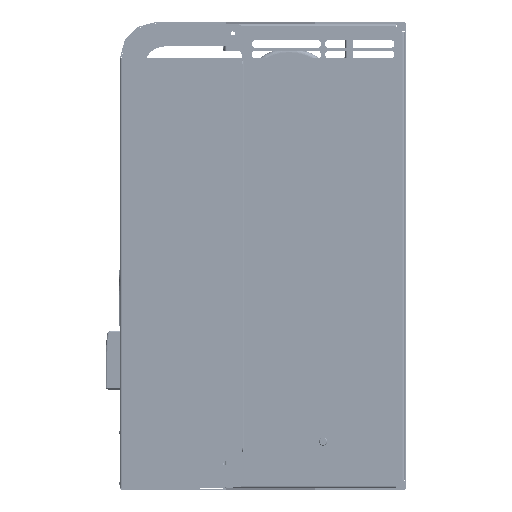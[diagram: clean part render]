
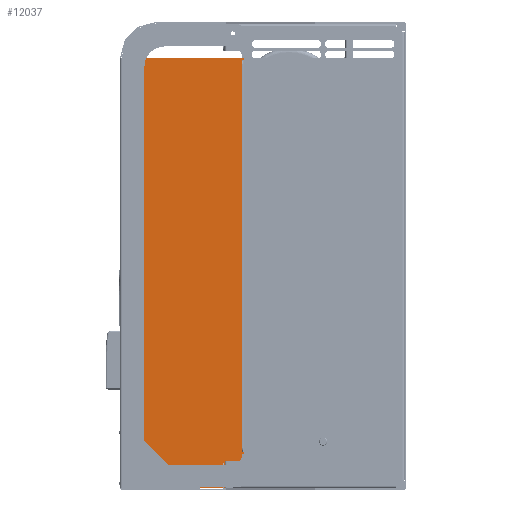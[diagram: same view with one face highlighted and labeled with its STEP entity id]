
A CAD part, left-side view. The second image highlights one B-rep face of the part: STEP entity #12037.
In plain terms, the highlighted planar face has unit normal (-1, 0, 0).
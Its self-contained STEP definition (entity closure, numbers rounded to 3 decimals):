
#12037 = ADVANCED_FACE ( 'NONE', ( #145536 ), #235431, .F. ) ;
#16081 = EDGE_CURVE ( 'NONE', #337042, #223485, #110135, .T. ) ;
#16265 = CARTESIAN_POINT ( 'NONE',  ( -323., 199.2, -240. ) ) ;
#16679 = CARTESIAN_POINT ( 'NONE',  ( -323., 199., -240. ) ) ;
#17357 = CARTESIAN_POINT ( 'NONE',  ( -323., 199., -243. ) ) ;
#17366 = CARTESIAN_POINT ( 'NONE',  ( -323., 222.883, -251.5 ) ) ;
#17409 = CARTESIAN_POINT ( 'NONE',  ( -323., 220.2, -251.5 ) ) ;
#17829 = CARTESIAN_POINT ( 'NONE',  ( -323., 202., -246.5 ) ) ;
#18579 = CARTESIAN_POINT ( 'NONE',  ( -323., 199., 240. ) ) ;
#18945 = CARTESIAN_POINT ( 'NONE',  ( -323., 202., -243. ) ) ;
#19064 = CARTESIAN_POINT ( 'NONE',  ( -323., 222.883, -284.1 ) ) ;
#19332 = CARTESIAN_POINT ( 'NONE',  ( -323., 207., -251.5 ) ) ;
#19369 = CARTESIAN_POINT ( 'NONE',  ( -323., 199.2, 240. ) ) ;
#19860 = CARTESIAN_POINT ( 'NONE',  ( -323., 199., 242.655 ) ) ;
#20257 = CARTESIAN_POINT ( 'NONE',  ( -323., 225., -284.1 ) ) ;
#20328 = CARTESIAN_POINT ( 'NONE',  ( -323., 223., -253.428 ) ) ;
#20483 = CARTESIAN_POINT ( 'NONE',  ( -323., 225., -253.428 ) ) ;
#20915 = CARTESIAN_POINT ( 'NONE',  ( -323., 223., -284.1 ) ) ;
#61910 = EDGE_CURVE ( 'NONE', #329546, #335476, #82780, .T. ) ;
#61981 = EDGE_CURVE ( 'NONE', #335476, #335127, #82689, .T. ) ;
#62002 = EDGE_CURVE ( 'NONE', #335127, #334226, #82692, .T. ) ;
#62021 = EDGE_CURVE ( 'NONE', #332993, #330620, #82632, .T. ) ;
#62027 = EDGE_CURVE ( 'NONE', #334226, #332993, #82619, .T. ) ;
#62050 = EDGE_CURVE ( 'NONE', #330620, #331355, #82579, .T. ) ;
#62065 = EDGE_CURVE ( 'NONE', #331355, #334168, #82564, .T. ) ;
#62503 = EDGE_CURVE ( 'NONE', #329214, #331505, #80541, .T. ) ;
#62660 = EDGE_CURVE ( 'NONE', #331505, #329546, #79816, .T. ) ;
#63495 = EDGE_CURVE ( 'NONE', #326706, #326905, #79727, .T. ) ;
#63628 = EDGE_CURVE ( 'NONE', #326905, #334168, #79302, .T. ) ;
#63849 = EDGE_CURVE ( 'NONE', #337042, #325860, #78756, .T. ) ;
#63857 = EDGE_CURVE ( 'NONE', #325750, #326706, #78759, .T. ) ;
#63864 = EDGE_CURVE ( 'NONE', #325860, #328692, #78730, .T. ) ;
#63868 = EDGE_CURVE ( 'NONE', #223485, #329214, #78724, .T. ) ;
#63877 = EDGE_CURVE ( 'NONE', #328840, #328692, #78709, .T. ) ;
#63879 = EDGE_CURVE ( 'NONE', #328840, #325750, #78742, .T. ) ;
#78670 = VECTOR ( 'NONE', #167515, 1000. ) ;
#78677 = VECTOR ( 'NONE', #167503, 1000. ) ;
#78709 = LINE ( 'NONE', #167520, #78670 ) ;
#78720 = VECTOR ( 'NONE', #167531, 1000. ) ;
#78724 = LINE ( 'NONE', #167536, #78720 ) ;
#78727 = VECTOR ( 'NONE', #167560, 1000. ) ;
#78730 = LINE ( 'NONE', #167562, #78727 ) ;
#78742 = LINE ( 'NONE', #167614, #78677 ) ;
#78756 = LINE ( 'NONE', #167637, #78843 ) ;
#78759 = LINE ( 'NONE', #167572, #78800 ) ;
#78800 = VECTOR ( 'NONE', #167570, 1000. ) ;
#78843 = VECTOR ( 'NONE', #167598, 1000. ) ;
#79298 = VECTOR ( 'NONE', #167907, 1000. ) ;
#79302 = LINE ( 'NONE', #167909, #79298 ) ;
#79721 = VECTOR ( 'NONE', #168109, 1000. ) ;
#79727 = LINE ( 'NONE', #168111, #79721 ) ;
#79803 = VECTOR ( 'NONE', #211973, 1000. ) ;
#79816 = LINE ( 'NONE', #211980, #79803 ) ;
#80515 = VECTOR ( 'NONE', #181958, 1000. ) ;
#80541 = LINE ( 'NONE', #181963, #80515 ) ;
#82562 = VECTOR ( 'NONE', #183661, 1000. ) ;
#82564 = LINE ( 'NONE', #183664, #82562 ) ;
#82579 = CIRCLE ( 'NONE', #217461, 5. ) ;
#82606 = VECTOR ( 'NONE', #183771, 1000. ) ;
#82619 = LINE ( 'NONE', #183774, #82606 ) ;
#82622 = VECTOR ( 'NONE', #183781, 1000. ) ;
#82632 = LINE ( 'NONE', #183835, #82622 ) ;
#82654 = VECTOR ( 'NONE', #183851, 1000. ) ;
#82688 = VECTOR ( 'NONE', #183905, 1000. ) ;
#82689 = LINE ( 'NONE', #183909, #82688 ) ;
#82692 = LINE ( 'NONE', #183883, #82654 ) ;
#82766 = VECTOR ( 'NONE', #184108, 1000. ) ;
#82780 = LINE ( 'NONE', #184110, #82766 ) ;
#101222 = CARTESIAN_POINT ( 'NONE',  ( -323., 349.519, 242.655 ) ) ;
#110020 = VECTOR ( 'NONE', #198889, 1000. ) ;
#110135 = LINE ( 'NONE', #198935, #110020 ) ;
#145536 = FACE_OUTER_BOUND ( 'NONE', #208469, .T. ) ;
#165558 = CARTESIAN_POINT ( 'NONE',  ( -323., 349.519, -284.1 ) ) ;
#167503 = DIRECTION ( 'NONE',  ( 0., 0., -1. ) ) ;
#167515 = DIRECTION ( 'NONE',  ( 0., 1., 0. ) ) ;
#167520 = CARTESIAN_POINT ( 'NONE',  ( -323., -1078.594, -253.428 ) ) ;
#167531 = DIRECTION ( 'NONE',  ( 0., -1., 0. ) ) ;
#167536 = CARTESIAN_POINT ( 'NONE',  ( -323., 1183.057, 242.655 ) ) ;
#167560 = DIRECTION ( 'NONE',  ( 0., 0., 1. ) ) ;
#167562 = CARTESIAN_POINT ( 'NONE',  ( -323., 225., 242.655 ) ) ;
#167570 = DIRECTION ( 'NONE',  ( 0., -1., 0. ) ) ;
#167572 = CARTESIAN_POINT ( 'NONE',  ( -323., 1183.057, -284.1 ) ) ;
#167598 = DIRECTION ( 'NONE',  ( 0., -1., 0. ) ) ;
#167614 = CARTESIAN_POINT ( 'NONE',  ( -323., 223., 242.655 ) ) ;
#167637 = CARTESIAN_POINT ( 'NONE',  ( -323., 1183.057, -284.1 ) ) ;
#167907 = DIRECTION ( 'NONE',  ( 0., -1., 0. ) ) ;
#167909 = CARTESIAN_POINT ( 'NONE',  ( -323., 1183.057, -251.5 ) ) ;
#168109 = DIRECTION ( 'NONE',  ( 0., 0., 1. ) ) ;
#168111 = CARTESIAN_POINT ( 'NONE',  ( -323., 222.883, -917.299 ) ) ;
#181958 = DIRECTION ( 'NONE',  ( 0., 0., -1. ) ) ;
#181963 = CARTESIAN_POINT ( 'NONE',  ( -323., 199., 243. ) ) ;
#183661 = DIRECTION ( 'NONE',  ( 0., 1., 0. ) ) ;
#183664 = CARTESIAN_POINT ( 'NONE',  ( -323., 219., -251.5 ) ) ;
#183708 = DIRECTION ( 'NONE',  ( 0., 1., 0. ) ) ;
#183712 = DIRECTION ( 'NONE',  ( 1., 0., 0. ) ) ;
#183717 = CARTESIAN_POINT ( 'NONE',  ( -323., 207., -246.5 ) ) ;
#183771 = DIRECTION ( 'NONE',  ( 0., 1., 0. ) ) ;
#183774 = CARTESIAN_POINT ( 'NONE',  ( -323., 199., -243. ) ) ;
#183781 = DIRECTION ( 'NONE',  ( 0., 0., -1. ) ) ;
#183835 = CARTESIAN_POINT ( 'NONE',  ( -323., 202., -240. ) ) ;
#183851 = DIRECTION ( 'NONE',  ( 0., 0., -1. ) ) ;
#183883 = CARTESIAN_POINT ( 'NONE',  ( -323., 199., -240. ) ) ;
#183905 = DIRECTION ( 'NONE',  ( 0., -1., 0. ) ) ;
#183909 = CARTESIAN_POINT ( 'NONE',  ( -323., 202., -240. ) ) ;
#184108 = DIRECTION ( 'NONE',  ( 0., 0., -1. ) ) ;
#184110 = CARTESIAN_POINT ( 'NONE',  ( -323., 199.2, 240. ) ) ;
#198889 = DIRECTION ( 'NONE',  ( 0., 0., 1. ) ) ;
#198935 = CARTESIAN_POINT ( 'NONE',  ( -323., 349.519, 242.655 ) ) ;
#208469 = EDGE_LOOP ( 'NONE', ( #307610, #308404, #308625, #309577, #307655, #308464, #307764, #307575, #307810, #308468, #307574, #308452, #308785, #308836, #308770, #308029, #308856, #309194 ) ) ;
#211973 = DIRECTION ( 'NONE',  ( 0., 1., 0. ) ) ;
#211980 = CARTESIAN_POINT ( 'NONE',  ( -323., 202., 240. ) ) ;
#217461 = AXIS2_PLACEMENT_3D ( 'NONE', #183717, #183712, #183708 ) ;
#223485 = VERTEX_POINT ( 'NONE', #101222 ) ;
#235419 = DIRECTION ( 'NONE',  ( 0., 1., 0. ) ) ;
#235422 = DIRECTION ( 'NONE',  ( 1., 0., 0. ) ) ;
#235431 = PLANE ( 'NONE',  #238700 ) ;
#235433 = CARTESIAN_POINT ( 'NONE',  ( -323., 1183.057, 242.655 ) ) ;
#238700 = AXIS2_PLACEMENT_3D ( 'NONE', #235433, #235422, #235419 ) ;
#307574 = ORIENTED_EDGE ( 'NONE', *, *, #63628, .T. ) ;
#307575 = ORIENTED_EDGE ( 'NONE', *, *, #63879, .T. ) ;
#307610 = ORIENTED_EDGE ( 'NONE', *, *, #62660, .F. ) ;
#307655 = ORIENTED_EDGE ( 'NONE', *, *, #63849, .T. ) ;
#307764 = ORIENTED_EDGE ( 'NONE', *, *, #63877, .F. ) ;
#307810 = ORIENTED_EDGE ( 'NONE', *, *, #63857, .T. ) ;
#308029 = ORIENTED_EDGE ( 'NONE', *, *, #62002, .F. ) ;
#308404 = ORIENTED_EDGE ( 'NONE', *, *, #62503, .F. ) ;
#308452 = ORIENTED_EDGE ( 'NONE', *, *, #62065, .F. ) ;
#308464 = ORIENTED_EDGE ( 'NONE', *, *, #63864, .T. ) ;
#308468 = ORIENTED_EDGE ( 'NONE', *, *, #63495, .T. ) ;
#308625 = ORIENTED_EDGE ( 'NONE', *, *, #63868, .F. ) ;
#308770 = ORIENTED_EDGE ( 'NONE', *, *, #62027, .F. ) ;
#308785 = ORIENTED_EDGE ( 'NONE', *, *, #62050, .F. ) ;
#308836 = ORIENTED_EDGE ( 'NONE', *, *, #62021, .F. ) ;
#308856 = ORIENTED_EDGE ( 'NONE', *, *, #61981, .F. ) ;
#309194 = ORIENTED_EDGE ( 'NONE', *, *, #61910, .F. ) ;
#309577 = ORIENTED_EDGE ( 'NONE', *, *, #16081, .F. ) ;
#325750 = VERTEX_POINT ( 'NONE', #20915 ) ;
#325860 = VERTEX_POINT ( 'NONE', #20257 ) ;
#326706 = VERTEX_POINT ( 'NONE', #19064 ) ;
#326905 = VERTEX_POINT ( 'NONE', #17366 ) ;
#328692 = VERTEX_POINT ( 'NONE', #20483 ) ;
#328840 = VERTEX_POINT ( 'NONE', #20328 ) ;
#329214 = VERTEX_POINT ( 'NONE', #19860 ) ;
#329546 = VERTEX_POINT ( 'NONE', #19369 ) ;
#330620 = VERTEX_POINT ( 'NONE', #17829 ) ;
#331355 = VERTEX_POINT ( 'NONE', #19332 ) ;
#331505 = VERTEX_POINT ( 'NONE', #18579 ) ;
#332993 = VERTEX_POINT ( 'NONE', #18945 ) ;
#334168 = VERTEX_POINT ( 'NONE', #17409 ) ;
#334226 = VERTEX_POINT ( 'NONE', #17357 ) ;
#335127 = VERTEX_POINT ( 'NONE', #16679 ) ;
#335476 = VERTEX_POINT ( 'NONE', #16265 ) ;
#337042 = VERTEX_POINT ( 'NONE', #165558 ) ;
